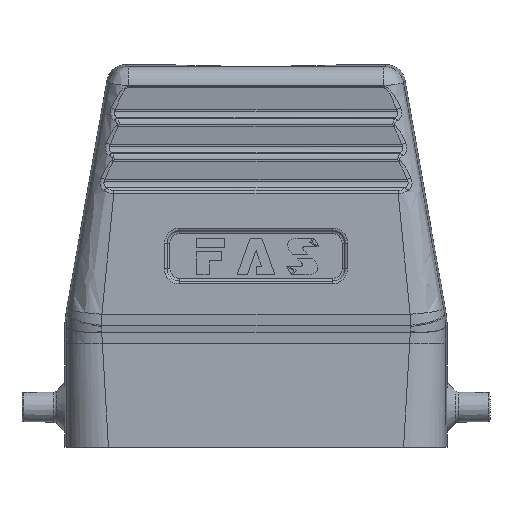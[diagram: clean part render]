
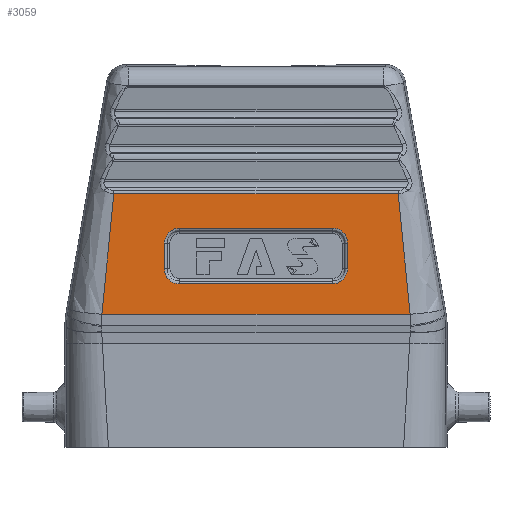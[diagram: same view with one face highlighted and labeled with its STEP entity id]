
A CAD part, front view. The second image highlights one B-rep face of the part: STEP entity #3059.
In plain terms, the highlighted planar face has unit normal (0, -1, 0).
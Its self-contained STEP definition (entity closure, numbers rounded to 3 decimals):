
#2 = CARTESIAN_POINT ( 'NONE',  ( -12., -22., 34.366 ) ) ;
#427 = CARTESIAN_POINT ( 'NONE',  ( 13.386, -22., 34.366 ) ) ;
#450 = CARTESIAN_POINT ( 'NONE',  ( -23.748, -22., 27.183 ) ) ;
#562 = CARTESIAN_POINT ( 'NONE',  ( 14.366, -22., 28. ) ) ;
#843 = VERTEX_POINT ( 'NONE', #16013 ) ;
#955 = EDGE_CURVE ( 'NONE', #19208, #16221, #21144, .T. ) ;
#1165 = CARTESIAN_POINT ( 'NONE',  ( 24.172, -22., 20.875 ) ) ;
#1622 = CARTESIAN_POINT ( 'NONE',  ( 24.172, -22., 20.875 ) ) ;
#1912 = CARTESIAN_POINT ( 'NONE',  ( -12., -22., 25.634 ) ) ;
#2068 = CARTESIAN_POINT ( 'NONE',  ( -24.172, -22., 20.875 ) ) ;
#2251 = EDGE_CURVE ( 'NONE', #6476, #11591, #13517, .T. ) ;
#2352 = DIRECTION ( 'NONE',  ( 0., 1., 0. ) ) ;
#2391 = EDGE_CURVE ( 'NONE', #11591, #3347, #23236, .T. ) ;
#2489 = ORIENTED_EDGE ( 'NONE', *, *, #2391, .F. ) ;
#2816 = CARTESIAN_POINT ( 'NONE',  ( 22.292, -22., 39.758 ) ) ;
#3059 = ADVANCED_FACE ( 'NONE', ( #22769, #22199 ), #22658, .F. ) ;
#3157 = CARTESIAN_POINT ( 'NONE',  ( -270.598, -22., 20.875 ) ) ;
#3347 = VERTEX_POINT ( 'NONE', #4699 ) ;
#3354 = CARTESIAN_POINT ( 'NONE',  ( 22.708, -22., 36.619 ) ) ;
#3549 = B_SPLINE_CURVE_WITH_KNOTS ( 'NONE', 3,
 ( #2068, #3934, #450, #16805, #5773, #16975 ),
 .UNSPECIFIED., .F., .F.,
 ( 4, 2, 4 ),
 ( 0., 0.5, 1. ),
 .UNSPECIFIED. ) ;
#3878 =( BOUNDED_CURVE ( )  B_SPLINE_CURVE ( 3, ( #5797, #18675, #7638, #562 ),
 .UNSPECIFIED., .F., .T. ) 
 B_SPLINE_CURVE_WITH_KNOTS ( ( 4, 4 ),
 ( 0., 1. ),
 .UNSPECIFIED. ) 
 CURVE ( )  GEOMETRIC_REPRESENTATION_ITEM ( )  RATIONAL_B_SPLINE_CURVE ( ( 1., 0.805, 0.805, 1. ) ) 
 REPRESENTATION_ITEM ( '' )  );
#3906 = ORIENTED_EDGE ( 'NONE', *, *, #11901, .F. ) ;
#3934 = CARTESIAN_POINT ( 'NONE',  ( -24.009, -22., 24.029 ) ) ;
#4053 = ORIENTED_EDGE ( 'NONE', *, *, #18112, .F. ) ;
#4476 = B_SPLINE_CURVE_WITH_KNOTS ( 'NONE', 3,
 ( #8221, #3354, #8877, #21782, #23241, #1165 ),
 .UNSPECIFIED., .F., .F.,
 ( 4, 2, 4 ),
 ( 0., 0.5, 1. ),
 .UNSPECIFIED. ) ;
#4494 =( BOUNDED_CURVE ( )  B_SPLINE_CURVE ( 3, ( #9732, #7749, #427, #5908 ),
 .UNSPECIFIED., .F., .F. ) 
 B_SPLINE_CURVE_WITH_KNOTS ( ( 4, 4 ),
 ( 0., 1. ),
 .UNSPECIFIED. ) 
 CURVE ( )  GEOMETRIC_REPRESENTATION_ITEM ( )  RATIONAL_B_SPLINE_CURVE ( ( 1., 0.805, 0.805, 1. ) ) 
 REPRESENTATION_ITEM ( '' )  );
#4570 = EDGE_CURVE ( 'NONE', #18295, #10199, #10290, .T. ) ;
#4699 = CARTESIAN_POINT ( 'NONE',  ( -14.366, -22., 32. ) ) ;
#4720 = LINE ( 'NONE', #17606, #7865 ) ;
#4846 = VECTOR ( 'NONE', #8431, 1000. ) ;
#5303 = VERTEX_POINT ( 'NONE', #22691 ) ;
#5504 = CARTESIAN_POINT ( 'NONE',  ( 12., -22., 25.634 ) ) ;
#5652 = ORIENTED_EDGE ( 'NONE', *, *, #18640, .F. ) ;
#5773 = CARTESIAN_POINT ( 'NONE',  ( -22.707, -22., 36.619 ) ) ;
#5797 = CARTESIAN_POINT ( 'NONE',  ( 12., -22., 25.634 ) ) ;
#5846 = CARTESIAN_POINT ( 'NONE',  ( 14.366, -22., 0. ) ) ;
#5871 = ORIENTED_EDGE ( 'NONE', *, *, #10354, .F. ) ;
#5908 = CARTESIAN_POINT ( 'NONE',  ( 12., -22., 34.366 ) ) ;
#6066 = VERTEX_POINT ( 'NONE', #2816 ) ;
#6289 = AXIS2_PLACEMENT_3D ( 'NONE', #7805, #2352, #17240 ) ;
#6476 = VERTEX_POINT ( 'NONE', #19775 ) ;
#6962 = CARTESIAN_POINT ( 'NONE',  ( -12., -22., 25.634 ) ) ;
#7055 = CARTESIAN_POINT ( 'NONE',  ( -14.366, -22., 26.614 ) ) ;
#7230 = CARTESIAN_POINT ( 'NONE',  ( -30., -22., 39.758 ) ) ;
#7638 = CARTESIAN_POINT ( 'NONE',  ( 14.366, -22., 26.614 ) ) ;
#7749 = CARTESIAN_POINT ( 'NONE',  ( 14.366, -22., 33.386 ) ) ;
#7805 = CARTESIAN_POINT ( 'NONE',  ( -30., -22., 0. ) ) ;
#7865 = VECTOR ( 'NONE', #13712, 1000. ) ;
#7868 = DIRECTION ( 'NONE',  ( -1., 0., 0. ) ) ;
#8221 = CARTESIAN_POINT ( 'NONE',  ( 22.292, -22., 39.758 ) ) ;
#8431 = DIRECTION ( 'NONE',  ( -1., 0., 0. ) ) ;
#8877 = CARTESIAN_POINT ( 'NONE',  ( 23.097, -22., 33.477 ) ) ;
#9357 = ORIENTED_EDGE ( 'NONE', *, *, #4570, .F. ) ;
#9548 = EDGE_CURVE ( 'NONE', #10199, #5303, #3549, .T. ) ;
#9732 = CARTESIAN_POINT ( 'NONE',  ( 14.366, -22., 32. ) ) ;
#9879 = ORIENTED_EDGE ( 'NONE', *, *, #2251, .F. ) ;
#10046 = VECTOR ( 'NONE', #7868, 1000. ) ;
#10199 = VERTEX_POINT ( 'NONE', #14827 ) ;
#10290 = LINE ( 'NONE', #3157, #4846 ) ;
#10354 = EDGE_CURVE ( 'NONE', #5303, #6066, #22914, .T. ) ;
#10399 = VECTOR ( 'NONE', #20423, 1000. ) ;
#11487 = CARTESIAN_POINT ( 'NONE',  ( -14.366, -22., 33.386 ) ) ;
#11591 = VERTEX_POINT ( 'NONE', #2 ) ;
#11643 = ORIENTED_EDGE ( 'NONE', *, *, #12442, .F. ) ;
#11901 = EDGE_CURVE ( 'NONE', #3347, #19208, #4720, .T. ) ;
#12442 = EDGE_CURVE ( 'NONE', #6066, #18295, #4476, .T. ) ;
#12775 = DIRECTION ( 'NONE',  ( 1., 0., 0. ) ) ;
#12924 = VECTOR ( 'NONE', #14210, 1000. ) ;
#12992 = EDGE_CURVE ( 'NONE', #15533, #22348, #3878, .T. ) ;
#13517 = LINE ( 'NONE', #18830, #10046 ) ;
#13712 = DIRECTION ( 'NONE',  ( 0., 0., -1. ) ) ;
#14210 = DIRECTION ( 'NONE',  ( 1., 0., 0. ) ) ;
#14827 = CARTESIAN_POINT ( 'NONE',  ( -24.172, -22., 20.875 ) ) ;
#15020 = EDGE_CURVE ( 'NONE', #22348, #843, #16187, .T. ) ;
#15290 = CARTESIAN_POINT ( 'NONE',  ( -12., -22., 34.366 ) ) ;
#15533 = VERTEX_POINT ( 'NONE', #5504 ) ;
#16013 = CARTESIAN_POINT ( 'NONE',  ( 14.366, -22., 32. ) ) ;
#16187 = LINE ( 'NONE', #5846, #10399 ) ;
#16221 = VERTEX_POINT ( 'NONE', #6962 ) ;
#16805 = CARTESIAN_POINT ( 'NONE',  ( -23.096, -22., 33.477 ) ) ;
#16975 = CARTESIAN_POINT ( 'NONE',  ( -22.292, -22., 39.758 ) ) ;
#17126 = EDGE_LOOP ( 'NONE', ( #9357, #11643, #5871, #21478 ) ) ;
#17153 = CARTESIAN_POINT ( 'NONE',  ( -14.366, -22., 32. ) ) ;
#17240 = DIRECTION ( 'NONE',  ( 0., 0., 1. ) ) ;
#17606 = CARTESIAN_POINT ( 'NONE',  ( -14.366, -22., 0. ) ) ;
#17710 = ORIENTED_EDGE ( 'NONE', *, *, #955, .F. ) ;
#18090 = CARTESIAN_POINT ( 'NONE',  ( -14.366, -22., 28. ) ) ;
#18112 = EDGE_CURVE ( 'NONE', #843, #6476, #4494, .T. ) ;
#18295 = VERTEX_POINT ( 'NONE', #1622 ) ;
#18640 = EDGE_CURVE ( 'NONE', #16221, #15533, #19542, .T. ) ;
#18675 = CARTESIAN_POINT ( 'NONE',  ( 13.386, -22., 25.634 ) ) ;
#18830 = CARTESIAN_POINT ( 'NONE',  ( -30., -22., 34.366 ) ) ;
#19180 = CARTESIAN_POINT ( 'NONE',  ( -14.366, -22., 28. ) ) ;
#19208 = VERTEX_POINT ( 'NONE', #19180 ) ;
#19410 = VECTOR ( 'NONE', #12775, 1000. ) ;
#19542 = LINE ( 'NONE', #23344, #12924 ) ;
#19775 = CARTESIAN_POINT ( 'NONE',  ( 12., -22., 34.366 ) ) ;
#19927 = CARTESIAN_POINT ( 'NONE',  ( -13.386, -22., 25.634 ) ) ;
#19932 = ORIENTED_EDGE ( 'NONE', *, *, #12992, .F. ) ;
#20423 = DIRECTION ( 'NONE',  ( 0., 0., 1. ) ) ;
#21144 =( BOUNDED_CURVE ( )  B_SPLINE_CURVE ( 3, ( #18090, #7055, #19927, #1912 ),
 .UNSPECIFIED., .F., .T. ) 
 B_SPLINE_CURVE_WITH_KNOTS ( ( 4, 4 ),
 ( 0., 1. ),
 .UNSPECIFIED. ) 
 CURVE ( )  GEOMETRIC_REPRESENTATION_ITEM ( )  RATIONAL_B_SPLINE_CURVE ( ( 1., 0.805, 0.805, 1. ) ) 
 REPRESENTATION_ITEM ( '' )  );
#21404 = CARTESIAN_POINT ( 'NONE',  ( 14.366, -22., 28. ) ) ;
#21415 = EDGE_LOOP ( 'NONE', ( #17710, #3906, #2489, #9879, #4053, #21563, #19932, #5652 ) ) ;
#21478 = ORIENTED_EDGE ( 'NONE', *, *, #9548, .F. ) ;
#21563 = ORIENTED_EDGE ( 'NONE', *, *, #15020, .F. ) ;
#21782 = CARTESIAN_POINT ( 'NONE',  ( 23.748, -22., 27.182 ) ) ;
#22199 = FACE_OUTER_BOUND ( 'NONE', #17126, .T. ) ;
#22348 = VERTEX_POINT ( 'NONE', #21404 ) ;
#22658 = PLANE ( 'NONE',  #6289 ) ;
#22691 = CARTESIAN_POINT ( 'NONE',  ( -22.292, -22., 39.758 ) ) ;
#22726 = CARTESIAN_POINT ( 'NONE',  ( -13.386, -22., 34.366 ) ) ;
#22769 = FACE_BOUND ( 'NONE', #21415, .T. ) ;
#22914 = LINE ( 'NONE', #7230, #19410 ) ;
#23236 =( BOUNDED_CURVE ( )  B_SPLINE_CURVE ( 3, ( #15290, #22726, #11487, #17153 ),
 .UNSPECIFIED., .F., .T. ) 
 B_SPLINE_CURVE_WITH_KNOTS ( ( 4, 4 ),
 ( 0., 1. ),
 .UNSPECIFIED. ) 
 CURVE ( )  GEOMETRIC_REPRESENTATION_ITEM ( )  RATIONAL_B_SPLINE_CURVE ( ( 1., 0.805, 0.805, 1. ) ) 
 REPRESENTATION_ITEM ( '' )  );
#23241 = CARTESIAN_POINT ( 'NONE',  ( 24.01, -22., 24.029 ) ) ;
#23344 = CARTESIAN_POINT ( 'NONE',  ( -30., -22., 25.634 ) ) ;
